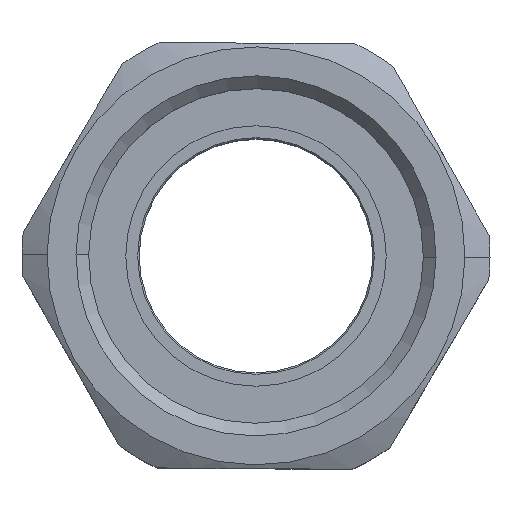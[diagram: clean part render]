
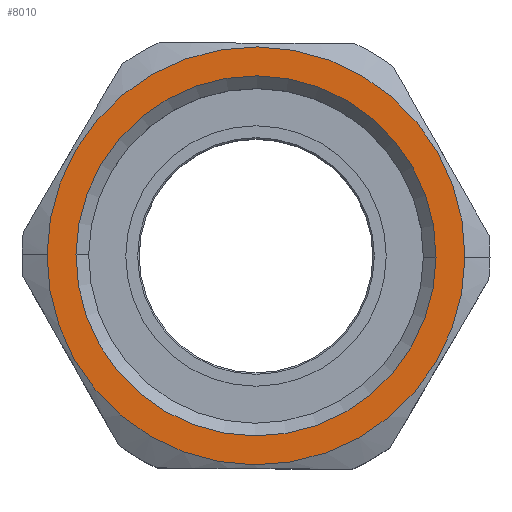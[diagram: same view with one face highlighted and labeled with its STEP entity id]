
A CAD part, top view. The second image highlights one B-rep face of the part: STEP entity #8010.
In plain terms, the highlighted planar face has unit normal (0, 0, 1).
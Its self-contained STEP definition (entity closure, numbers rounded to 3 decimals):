
#2220=CARTESIAN_POINT('',(25.91,68.111,-38.772));
#2230=VERTEX_POINT('',#2220);
#2390=CARTESIAN_POINT('',(74.155,68.111,-38.772));
#2400=VERTEX_POINT('',#2390);
#2430=CARTESIAN_POINT('',(50.033,68.111,-38.772));
#2440=DIRECTION('',(0.,0.,-1.));
#2450=DIRECTION('',(-1.,0.,0.));
#2460=AXIS2_PLACEMENT_3D('',#2430,#2440,#2450);
#2470=CIRCLE('',#2460,24.123);
#2480=EDGE_CURVE('',#2400,#2230,#2470,.T.);
#7760=CARTESIAN_POINT('',(81.458,68.111,-38.772));
#7770=DIRECTION('',(0.,0.,-1.));
#7780=DIRECTION('',(-1.,0.,0.));
#7790=AXIS2_PLACEMENT_3D('',#7760,#7770,#7780);
#7800=PLANE('',#7790);
#7810=EDGE_CURVE('',#2230,#2400,#2470,.T.);
#7820=ORIENTED_EDGE('',*,*,#7810,.T.);
#7830=ORIENTED_EDGE('',*,*,#2480,.T.);
#7840=EDGE_LOOP('',(#7830,#7820));
#7850=FACE_BOUND('',#7840,.T.);
#7860=CARTESIAN_POINT('',(50.033,68.111,-38.772));
#7870=DIRECTION('',(0.,0.,-1.));
#7880=DIRECTION('',(-1.,0.,0.));
#7890=AXIS2_PLACEMENT_3D('',#7860,#7870,#7880);
#7900=CIRCLE('',#7890,28.);
#7910=CARTESIAN_POINT('',(22.033,68.111,-38.772));
#7920=VERTEX_POINT('',#7910);
#7930=CARTESIAN_POINT('',(78.033,68.111,-38.772));
#7940=VERTEX_POINT('',#7930);
#7950=EDGE_CURVE('',#7920,#7940,#7900,.T.);
#7960=ORIENTED_EDGE('',*,*,#7950,.F.);
#7970=EDGE_CURVE('',#7940,#7920,#7900,.T.);
#7980=ORIENTED_EDGE('',*,*,#7970,.F.);
#7990=EDGE_LOOP('',(#7980,#7960));
#8000=FACE_OUTER_BOUND('',#7990,.T.);
#8010=ADVANCED_FACE('',(#7850,#8000),#7800,.F.);
